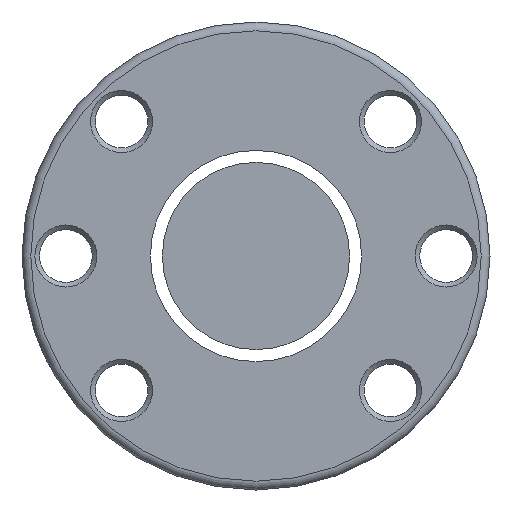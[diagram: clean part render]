
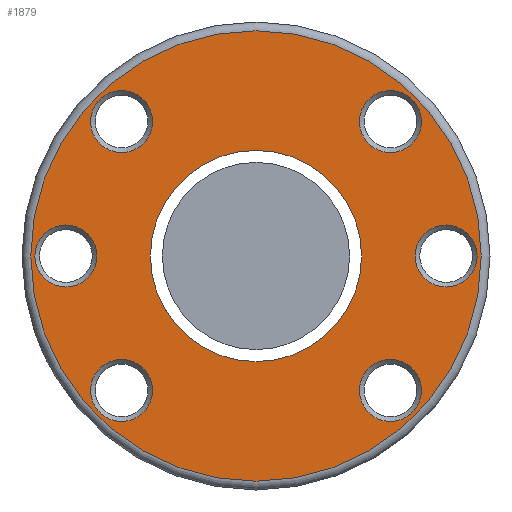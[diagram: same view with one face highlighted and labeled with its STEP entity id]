
A CAD part, left-side view. The second image highlights one B-rep face of the part: STEP entity #1879.
In plain terms, the highlighted planar face has unit normal (-1, 0, 0).
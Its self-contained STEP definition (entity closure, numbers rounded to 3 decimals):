
#23 = CARTESIAN_POINT ( 'NONE',  ( -85., 27.2, 0. ) ) ;
#86 = FACE_BOUND ( 'NONE', #699, .T. ) ;
#97 = CARTESIAN_POINT ( 'NONE',  ( -85., 17.681, -22.981 ) ) ;
#100 = FACE_BOUND ( 'NONE', #1008, .T. ) ;
#115 = CIRCLE ( 'NONE', #1125, 5.3 ) ;
#131 = ORIENTED_EDGE ( 'NONE', *, *, #1508, .T. ) ;
#199 = DIRECTION ( 'NONE',  ( 0., -1., 0. ) ) ;
#203 = EDGE_LOOP ( 'NONE', ( #1349 ) ) ;
#242 = CARTESIAN_POINT ( 'NONE',  ( -85., 0., 0. ) ) ;
#243 = VERTEX_POINT ( 'NONE', #1473 ) ;
#247 = AXIS2_PLACEMENT_3D ( 'NONE', #242, #1815, #2450 ) ;
#291 = AXIS2_PLACEMENT_3D ( 'NONE', #954, #2410, #2625 ) ;
#292 = DIRECTION ( 'NONE',  ( 1., 0., 0. ) ) ;
#319 = FACE_BOUND ( 'NONE', #732, .T. ) ;
#457 = AXIS2_PLACEMENT_3D ( 'NONE', #1469, #2684, #1037 ) ;
#488 = VERTEX_POINT ( 'NONE', #97 ) ;
#491 = DIRECTION ( 'NONE',  ( 0., -1., 0. ) ) ;
#535 = CARTESIAN_POINT ( 'NONE',  ( -85., -22.981, -22.981 ) ) ;
#540 = FACE_BOUND ( 'NONE', #2463, .T. ) ;
#598 = VERTEX_POINT ( 'NONE', #23 ) ;
#602 = ORIENTED_EDGE ( 'NONE', *, *, #1104, .T. ) ;
#637 = CARTESIAN_POINT ( 'NONE',  ( -85., -37.8, 0. ) ) ;
#652 = DIRECTION ( 'NONE',  ( 1., 0., 0. ) ) ;
#667 = CARTESIAN_POINT ( 'NONE',  ( -85., 22.981, -22.981 ) ) ;
#691 = DIRECTION ( 'NONE',  ( 1., 0., 0. ) ) ;
#693 = CIRCLE ( 'NONE', #2013, 5.3 ) ;
#699 = EDGE_LOOP ( 'NONE', ( #2491 ) ) ;
#727 = VERTEX_POINT ( 'NONE', #2407 ) ;
#732 = EDGE_LOOP ( 'NONE', ( #1835 ) ) ;
#798 = EDGE_CURVE ( 'NONE', #488, #488, #1326, .T. ) ;
#831 = CARTESIAN_POINT ( 'NONE',  ( -85., 17.681, 22.981 ) ) ;
#844 = VERTEX_POINT ( 'NONE', #831 ) ;
#846 = EDGE_CURVE ( 'NONE', #727, #727, #1809, .T. ) ;
#861 = EDGE_LOOP ( 'NONE', ( #2629 ) ) ;
#923 = FACE_BOUND ( 'NONE', #2582, .T. ) ;
#938 = ORIENTED_EDGE ( 'NONE', *, *, #2644, .T. ) ;
#954 = CARTESIAN_POINT ( 'NONE',  ( -85., 40., 0. ) ) ;
#989 = EDGE_CURVE ( 'NONE', #2279, #2279, #115, .T. ) ;
#1008 = EDGE_LOOP ( 'NONE', ( #131 ) ) ;
#1037 = DIRECTION ( 'NONE',  ( 0., -1., 0. ) ) ;
#1055 = VERTEX_POINT ( 'NONE', #1284 ) ;
#1104 = EDGE_CURVE ( 'NONE', #1055, #1055, #1880, .T. ) ;
#1119 = CARTESIAN_POINT ( 'NONE',  ( -85., -32.5, 0. ) ) ;
#1125 = AXIS2_PLACEMENT_3D ( 'NONE', #1119, #652, #2143 ) ;
#1143 = DIRECTION ( 'NONE',  ( 0., -1., 0. ) ) ;
#1186 = AXIS2_PLACEMENT_3D ( 'NONE', #535, #1639, #1143 ) ;
#1284 = CARTESIAN_POINT ( 'NONE',  ( -85., 18.05, 0. ) ) ;
#1326 = CIRCLE ( 'NONE', #1717, 5.3 ) ;
#1349 = ORIENTED_EDGE ( 'NONE', *, *, #798, .T. ) ;
#1361 = EDGE_CURVE ( 'NONE', #243, #243, #1739, .T. ) ;
#1469 = CARTESIAN_POINT ( 'NONE',  ( -85., 0., 0. ) ) ;
#1473 = CARTESIAN_POINT ( 'NONE',  ( -85., -38.5, 0. ) ) ;
#1508 = EDGE_CURVE ( 'NONE', #844, #844, #1922, .T. ) ;
#1511 = DIRECTION ( 'NONE',  ( 1., 0., 0. ) ) ;
#1535 = CARTESIAN_POINT ( 'NONE',  ( -85., 22.981, 22.981 ) ) ;
#1578 = FACE_OUTER_BOUND ( 'NONE', #2085, .T. ) ;
#1639 = DIRECTION ( 'NONE',  ( 1., 0., 0. ) ) ;
#1703 = VERTEX_POINT ( 'NONE', #2532 ) ;
#1717 = AXIS2_PLACEMENT_3D ( 'NONE', #667, #1511, #2166 ) ;
#1739 = CIRCLE ( 'NONE', #457, 38.5 ) ;
#1746 = ORIENTED_EDGE ( 'NONE', *, *, #1361, .T. ) ;
#1768 = PLANE ( 'NONE',  #291 ) ;
#1809 = CIRCLE ( 'NONE', #2419, 5.3 ) ;
#1815 = DIRECTION ( 'NONE',  ( 1., 0., 0. ) ) ;
#1835 = ORIENTED_EDGE ( 'NONE', *, *, #2679, .T. ) ;
#1879 = ADVANCED_FACE ( 'NONE', ( #1578, #2176, #319, #1985, #86, #100, #923, #540 ), #1768, .T. ) ;
#1880 = CIRCLE ( 'NONE', #247, 18.05 ) ;
#1922 = CIRCLE ( 'NONE', #2006, 5.3 ) ;
#1937 = CARTESIAN_POINT ( 'NONE',  ( -85., -22.981, 22.981 ) ) ;
#1985 = FACE_BOUND ( 'NONE', #861, .T. ) ;
#2006 = AXIS2_PLACEMENT_3D ( 'NONE', #1535, #691, #491 ) ;
#2013 = AXIS2_PLACEMENT_3D ( 'NONE', #2087, #2099, #199 ) ;
#2085 = EDGE_LOOP ( 'NONE', ( #1746 ) ) ;
#2087 = CARTESIAN_POINT ( 'NONE',  ( -85., 32.5, 0. ) ) ;
#2099 = DIRECTION ( 'NONE',  ( 1., 0., 0. ) ) ;
#2143 = DIRECTION ( 'NONE',  ( 0., -1., 0. ) ) ;
#2166 = DIRECTION ( 'NONE',  ( 0., -1., 0. ) ) ;
#2176 = FACE_BOUND ( 'NONE', #203, .T. ) ;
#2238 = CIRCLE ( 'NONE', #1186, 5.3 ) ;
#2279 = VERTEX_POINT ( 'NONE', #637 ) ;
#2383 = DIRECTION ( 'NONE',  ( 0., -1., 0. ) ) ;
#2407 = CARTESIAN_POINT ( 'NONE',  ( -85., -28.281, 22.981 ) ) ;
#2410 = DIRECTION ( 'NONE',  ( -1., 0., 0. ) ) ;
#2419 = AXIS2_PLACEMENT_3D ( 'NONE', #1937, #292, #2383 ) ;
#2450 = DIRECTION ( 'NONE',  ( 0., 1., 0. ) ) ;
#2463 = EDGE_LOOP ( 'NONE', ( #602 ) ) ;
#2491 = ORIENTED_EDGE ( 'NONE', *, *, #846, .T. ) ;
#2532 = CARTESIAN_POINT ( 'NONE',  ( -85., -28.281, -22.981 ) ) ;
#2582 = EDGE_LOOP ( 'NONE', ( #938 ) ) ;
#2625 = DIRECTION ( 'NONE',  ( 0., -1., 0. ) ) ;
#2629 = ORIENTED_EDGE ( 'NONE', *, *, #989, .T. ) ;
#2644 = EDGE_CURVE ( 'NONE', #598, #598, #693, .T. ) ;
#2679 = EDGE_CURVE ( 'NONE', #1703, #1703, #2238, .T. ) ;
#2684 = DIRECTION ( 'NONE',  ( -1., 0., 0. ) ) ;
